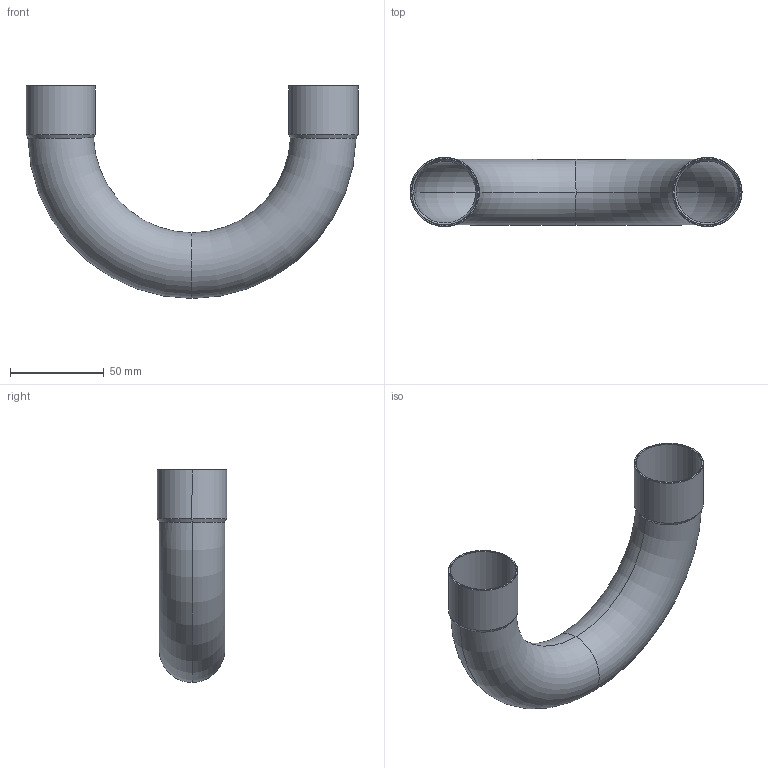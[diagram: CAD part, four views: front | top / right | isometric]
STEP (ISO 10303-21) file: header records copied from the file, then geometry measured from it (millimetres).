
FILE_DESCRIPTION((''),'2;1');
FILE_NAME('C:\sanha_work\5130\f\1506035.stp','2005-10-21T17:22:38',('Kris'),(''),'Autodesk Inventor 8','Autodesk Inventor 8','');
FILE_SCHEMA(('AUTOMOTIVE_DESIGN { 1 0 10303 214 1 1 1 1 }'));
Length unit declared in the file: millimetre
Products named in the file (1): 1506035
Bounding box: 177 x 37 x 113.5 mm (x, y, z)
Volume: 29432.6 mm3; surface area: 59056.3 mm2
Topology: 1 solids, 1 shells, 34 faces, 68 edges, 36 vertices
Faces by surface type: cone 12, bspline 9, torus 8, cylinder 4, plane 1
Entity records: 1131 total; most frequent: CARTESIAN_POINT 430, DIRECTION 148, ORIENTED_EDGE 136, EDGE_CURVE 68, AXIS2_PLACEMENT_3D 62, VERTEX_POINT 36, CIRCLE 36, EDGE_LOOP 36
